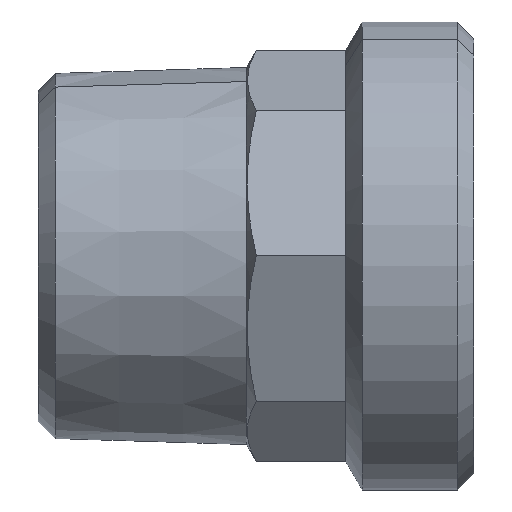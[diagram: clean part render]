
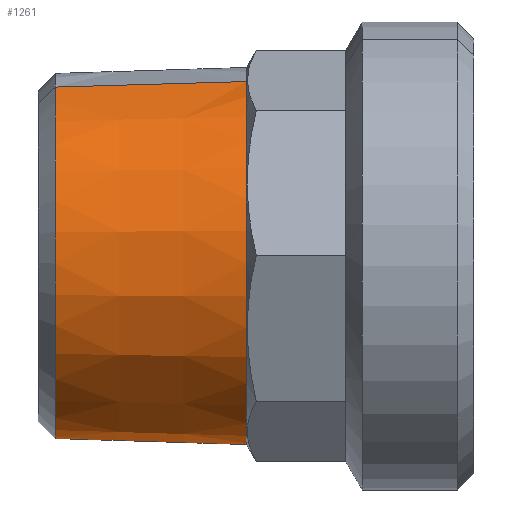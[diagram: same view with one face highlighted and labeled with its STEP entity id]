
A CAD part, top view. The second image highlights one B-rep face of the part: STEP entity #1261.
In plain terms, the highlighted conical face has half-angle 1.79 degrees and reference radius 16.591 mm.
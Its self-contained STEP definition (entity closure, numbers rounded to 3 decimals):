
#257=CARTESIAN_POINT('',(-0.851,16.882,0.0));
#258=VERTEX_POINT('',#257);
#376=CARTESIAN_POINT('',(-0.851,-16.882,0.));
#377=VERTEX_POINT('',#376);
#473=CARTESIAN_POINT('',(-17.952,16.348,0.));
#474=VERTEX_POINT('',#473);
#475=CARTESIAN_POINT('',(-0.851,16.882,0.0));
#476=DIRECTION('',(-1.,-0.031,0.));
#477=VECTOR('',#476,17.109);
#478=LINE('',#475,#477);
#479=EDGE_CURVE('',#258,#474,#478,.T.);
#482=CARTESIAN_POINT('',(-17.952,-16.348,0.));
#483=VERTEX_POINT('',#482);
#484=CARTESIAN_POINT('',(-0.851,-16.882,0.));
#485=DIRECTION('',(-1.,0.031,0.));
#486=VECTOR('',#485,17.109);
#487=LINE('',#484,#486);
#488=EDGE_CURVE('',#377,#483,#487,.T.);
#513=CARTESIAN_POINT('',(-17.952,0.0,0.));
#514=DIRECTION('',(-1.0,0.0,0.0));
#515=DIRECTION('',(0.0,-1.0,0.0));
#516=AXIS2_PLACEMENT_3D('',#513,#514,#515);
#517=CIRCLE('',#516,16.348);
#518=EDGE_CURVE('',#483,#474,#517,.T.);
#1244=CARTESIAN_POINT('',(-10.176,0.0,0.0));
#1245=DIRECTION('',(1.0,0.0,0.0));
#1246=DIRECTION('',(0.0,1.0,0.0));
#1247=AXIS2_PLACEMENT_3D('',#1244,#1245,#1246);
#1248=CONICAL_SURFACE('',#1247,16.591,1.79);
#1249=ORIENTED_EDGE('',*,*,#479,.T.);
#1250=ORIENTED_EDGE('',*,*,#518,.F.);
#1251=ORIENTED_EDGE('',*,*,#488,.F.);
#1252=CARTESIAN_POINT('',(-0.851,0.0,0.0));
#1253=DIRECTION('',(1.0,0.0,0.0));
#1254=DIRECTION('',(0.0,1.0,0.0));
#1255=AXIS2_PLACEMENT_3D('',#1252,#1253,#1254);
#1256=CIRCLE('',#1255,16.882);
#1257=EDGE_CURVE('',#258,#377,#1256,.T.);
#1258=ORIENTED_EDGE('',*,*,#1257,.F.);
#1259=EDGE_LOOP('',(#1249,#1250,#1251,#1258));
#1260=FACE_OUTER_BOUND('',#1259,.T.);
#1261=ADVANCED_FACE('',(#1260),#1248,.T.);
